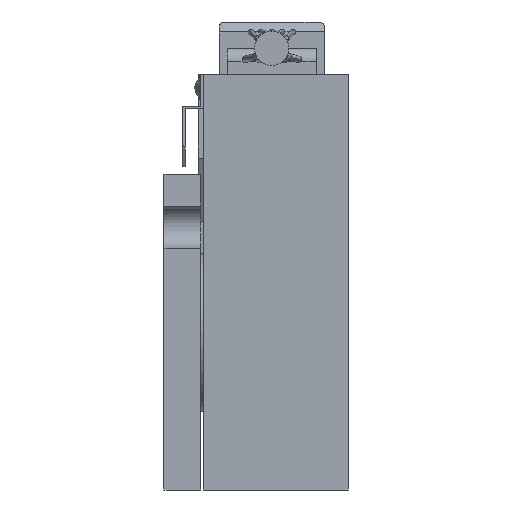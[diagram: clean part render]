
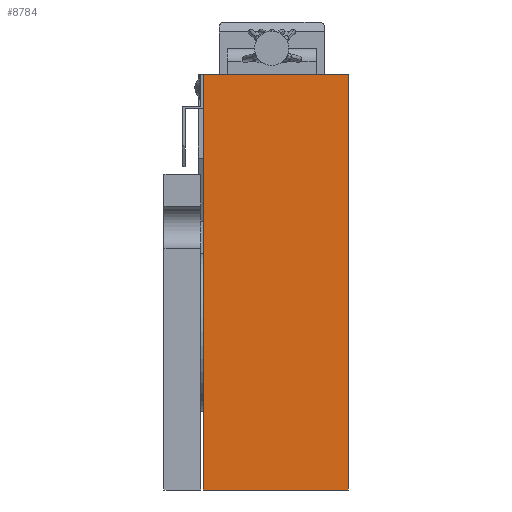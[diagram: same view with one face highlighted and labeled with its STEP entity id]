
A CAD part, left-side view. The second image highlights one B-rep face of the part: STEP entity #8784.
In plain terms, the highlighted planar face has unit normal (-1, 0, 0).
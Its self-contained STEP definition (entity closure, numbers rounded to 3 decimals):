
#80 = VECTOR ( 'NONE', #3904, 1000. ) ;
#626 = LINE ( 'NONE', #3752, #11625 ) ;
#1093 = LINE ( 'NONE', #12920, #8280 ) ;
#3623 = DIRECTION ( 'NONE',  ( 0., 0., -1. ) ) ;
#3752 = CARTESIAN_POINT ( 'NONE',  ( -30., 0., -30. ) ) ;
#3904 = DIRECTION ( 'NONE',  ( 0., 1., 0. ) ) ;
#4802 = CARTESIAN_POINT ( 'NONE',  ( -30., 0., 49. ) ) ;
#5341 = CARTESIAN_POINT ( 'NONE',  ( -30., 27.5, 49. ) ) ;
#5385 = DIRECTION ( 'NONE',  ( 1., 0., 0. ) ) ;
#5390 = FACE_OUTER_BOUND ( 'NONE', #12187, .T. ) ;
#7717 = ORIENTED_EDGE ( 'NONE', *, *, #10087, .T. ) ;
#7941 = CARTESIAN_POINT ( 'NONE',  ( -30., 27.5, -30. ) ) ;
#8119 = CARTESIAN_POINT ( 'NONE',  ( -30., 0., -30. ) ) ;
#8280 = VECTOR ( 'NONE', #11335, 1000. ) ;
#8421 = ORIENTED_EDGE ( 'NONE', *, *, #12481, .F. ) ;
#8475 = CARTESIAN_POINT ( 'NONE',  ( -30., 0., -30. ) ) ;
#8784 = ADVANCED_FACE ( 'NONE', ( #5390 ), #18418, .F. ) ;
#8793 = VECTOR ( 'NONE', #13357, 1000. ) ;
#9035 = LINE ( 'NONE', #8119, #80 ) ;
#10087 = EDGE_CURVE ( 'NONE', #15223, #10462, #1093, .T. ) ;
#10462 = VERTEX_POINT ( 'NONE', #7941 ) ;
#11335 = DIRECTION ( 'NONE',  ( 0., 0., -1. ) ) ;
#11469 = ORIENTED_EDGE ( 'NONE', *, *, #16154, .F. ) ;
#11625 = VECTOR ( 'NONE', #3623, 1000. ) ;
#11763 = AXIS2_PLACEMENT_3D ( 'NONE', #8475, #5385, #14242 ) ;
#12187 = EDGE_LOOP ( 'NONE', ( #7717, #8421, #11469, #18589 ) ) ;
#12481 = EDGE_CURVE ( 'NONE', #13588, #10462, #9035, .T. ) ;
#12920 = CARTESIAN_POINT ( 'NONE',  ( -30., 27.5, -30. ) ) ;
#13292 = CARTESIAN_POINT ( 'NONE',  ( -30., 0., 49. ) ) ;
#13357 = DIRECTION ( 'NONE',  ( 0., 1., 0. ) ) ;
#13438 = EDGE_CURVE ( 'NONE', #15669, #15223, #17995, .T. ) ;
#13588 = VERTEX_POINT ( 'NONE', #15100 ) ;
#14242 = DIRECTION ( 'NONE',  ( 0., 0., 1. ) ) ;
#15100 = CARTESIAN_POINT ( 'NONE',  ( -30., 0., -30. ) ) ;
#15223 = VERTEX_POINT ( 'NONE', #5341 ) ;
#15669 = VERTEX_POINT ( 'NONE', #4802 ) ;
#16154 = EDGE_CURVE ( 'NONE', #15669, #13588, #626, .T. ) ;
#17995 = LINE ( 'NONE', #13292, #8793 ) ;
#18418 = PLANE ( 'NONE',  #11763 ) ;
#18589 = ORIENTED_EDGE ( 'NONE', *, *, #13438, .T. ) ;
